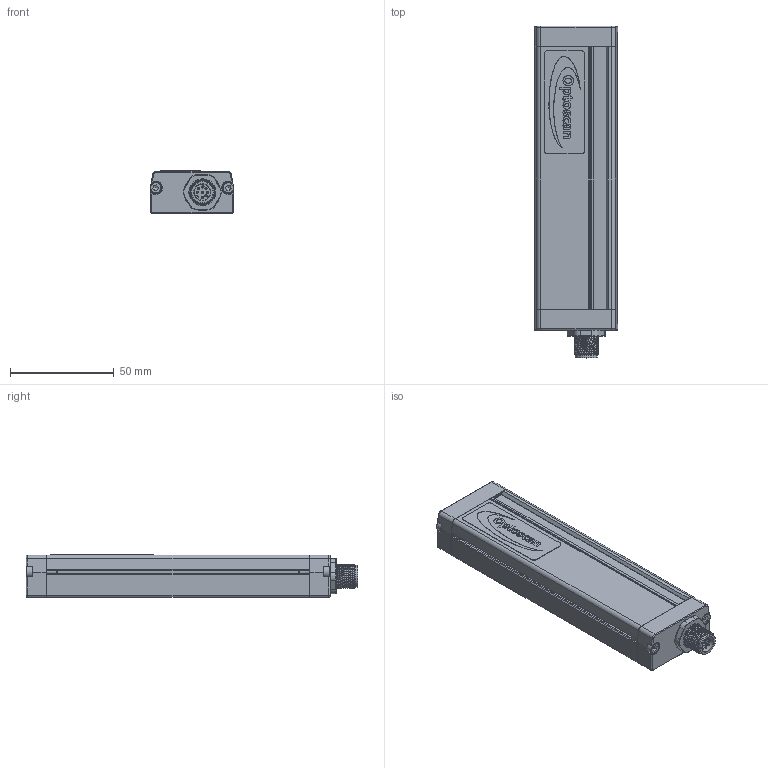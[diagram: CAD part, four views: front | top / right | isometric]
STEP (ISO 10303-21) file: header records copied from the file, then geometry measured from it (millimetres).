
FILE_DESCRIPTION(/* description */ (''),/* implementation_level */ '2;1');
FILE_NAME(/* name */ 'C:\Users\andre\SynologyDrive\Optoscan\Libreria Componenti\00 - Barriere\Polaris sorgente\Barriera Polaris RX\Polaris_80_RX.stp',/* time_stamp */ '2021-05-03T15:27:49+02:00',/* author */ ('andre'),/* organization */ (''),/* preprocessor_version */ 'ST-DEVELOPER v18',/* originating_system */ 'Autodesk Inventor 2020',/* authorisation */ '');
FILE_SCHEMA (('AUTOMOTIVE_DESIGN { 1 0 10303 214 3 1 1 }'));
Length unit declared in the file: millimetre
Products named in the file (1): Polaris_80_RX
Bounding box: 40.5 x 160.3 x 20.75 mm (x, y, z)
Volume: 36265.4 mm3; surface area: 42298.8 mm2
Topology: 1 solids, 1 shells, 700 faces, 1926 edges, 1237 vertices
Faces by surface type: plane 319, cylinder 199, bspline 94, torus 70, sphere 10, cone 8
Full cylindrical faces by diameter (mm): 1 x8, 2.459 x4, 2.5 x4, 3 x4, 3.5 x4, 5.5 x4, 8 x1, 10.5 x2, 11.75 x9, 15.7 x1, 17.5 x1
Entity records: 28472 total; most frequent: CARTESIAN_POINT 10246, ORIENTED_EDGE 3826, DIRECTION 3447, EDGE_CURVE 1913, VERTEX_POINT 1237, AXIS2_PLACEMENT_3D 1211, LINE 1025, VECTOR 1025
